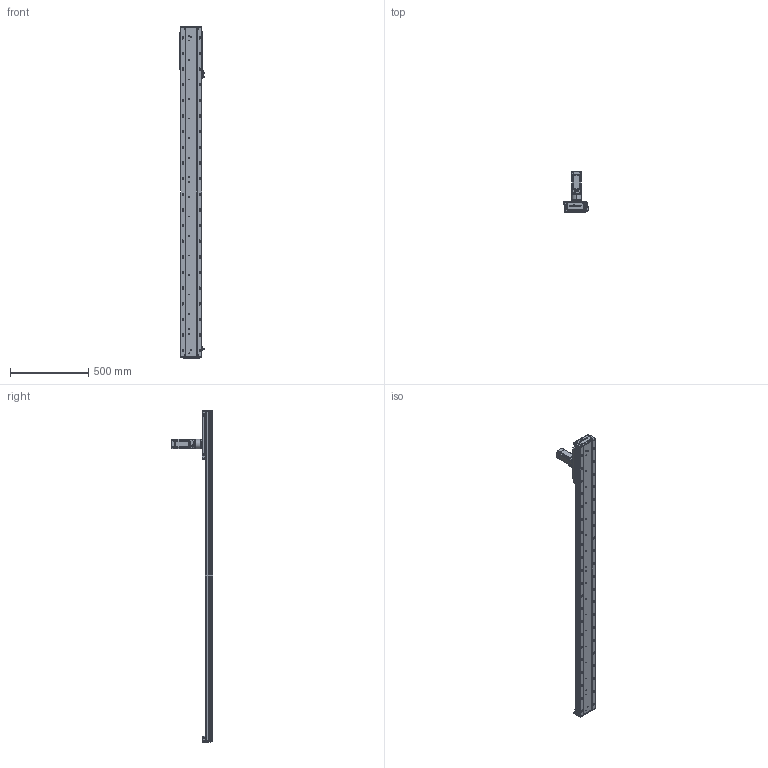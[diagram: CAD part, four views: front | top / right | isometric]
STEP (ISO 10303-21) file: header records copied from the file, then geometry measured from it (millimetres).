
FILE_DESCRIPTION (( 'STEP AP203' ), '1' );
FILE_NAME ('RY140-C-250-UK.SLDASM_1750.step', '2022-03-12T01:59:37', ( '' ), ( '' ), 'SwSTEP 2.0', 'SolidWorks 2016', '' );
FILE_SCHEMA (( 'CONFIG_CONTROL_DESIGN' ));
Length unit declared in the file: millimetre
Products named in the file (12): 覜茼ん672; RY140-300齿条模组型材底座_1750; RY140-喘沭賑輸; 絳寢賑輸EGH15; RY120外置感应片(140共用）; RY140-喘沭裔啣; RY140-絳寢EGH15-300-MK_1750; 140蚥薯蝶輸; RY140-喘謫萇儂覃誹啣; 15; RY140-C-250-UK.SLDASM_1750; 60ZDF珨撰俋倛芞T1 200W M4
Assembly tree (21 placements, depth 2):
  RY140-C-250-UK.SLDASM_1750
    RY140-300齿条模组型材底座_1750
    RY140-絳寢EGH15-300-MK_1750  x2
    絳寢賑輸EGH15  x6
    RY140-喘沭裔啣  x2
    覜茼ん672  x3
    RY140-喘沭賑輸
    RY120外置感应片(140共用）
    RY140-喘謫萇儂覃誹啣
    140蚥薯蝶輸  x2
    60ZDF珨撰俋倛芞T1 200W M4
    15
Bounding box: 153.7 x 263.5 x 2122 mm (x, y, z)
Volume: 6876088.7 mm3; surface area: 1866779.6 mm2
Topology: 21 solids, 21 shells, 3830 faces, 10278 edges, 6632 vertices
Faces by surface type: cylinder 1806, plane 1690, cone 288, bspline 46
Entity records: 88809 total; most frequent: CARTESIAN_POINT 19887, ORIENTED_EDGE 14086, DIRECTION 14037, EDGE_CURVE 7043, AXIS2_PLACEMENT_3D 5075, VERTEX_POINT 4613, LINE 3887, VECTOR 3887
